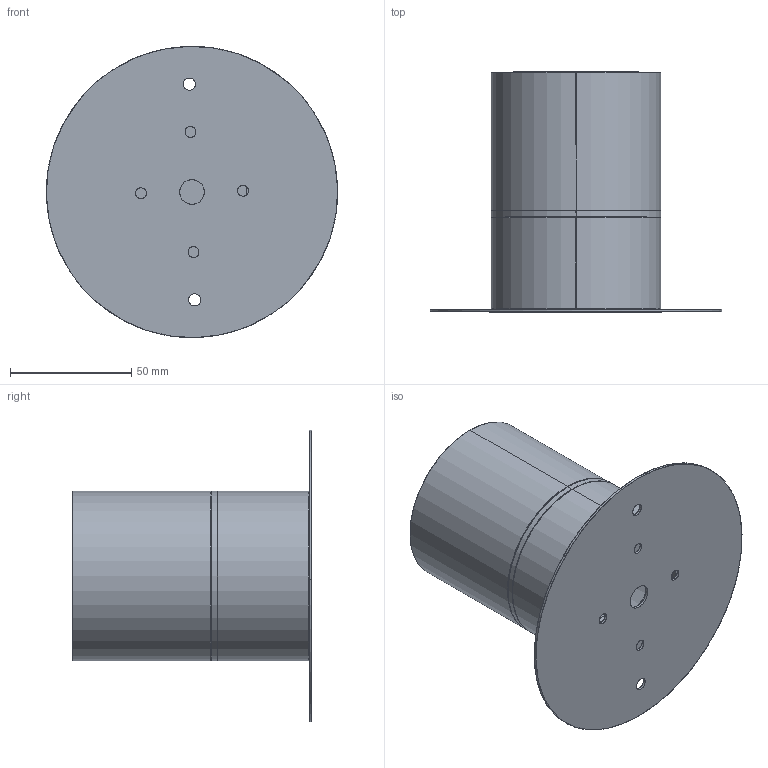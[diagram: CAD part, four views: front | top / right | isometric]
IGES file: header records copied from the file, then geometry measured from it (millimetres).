
Start section: SolidWorks IGES file using analytic representation for surfaces
Global section: file name: \\STORAGE\Tecnico Condiviso\1 FASCICOLI TECNICI\AXO DESIGN\AXO063-PIVOT\DRAW\3D\UPPIVO01-USA-PER 3D.IGS; native system: SolidWorks 2024; preprocessor: SolidWorks 2024; author: tecnico3; date: 240527.111931; units: millimetre
Bounding box: 119.96 x 98.7 x 119.96 mm (x, y, z)
Surface area: 86209 mm2 (no closed solid volume)
Topology: 0 solids, 0 shells, 452 faces, 5236 edges, 5232 vertices
Faces by surface type: revolution 413, bspline 39
